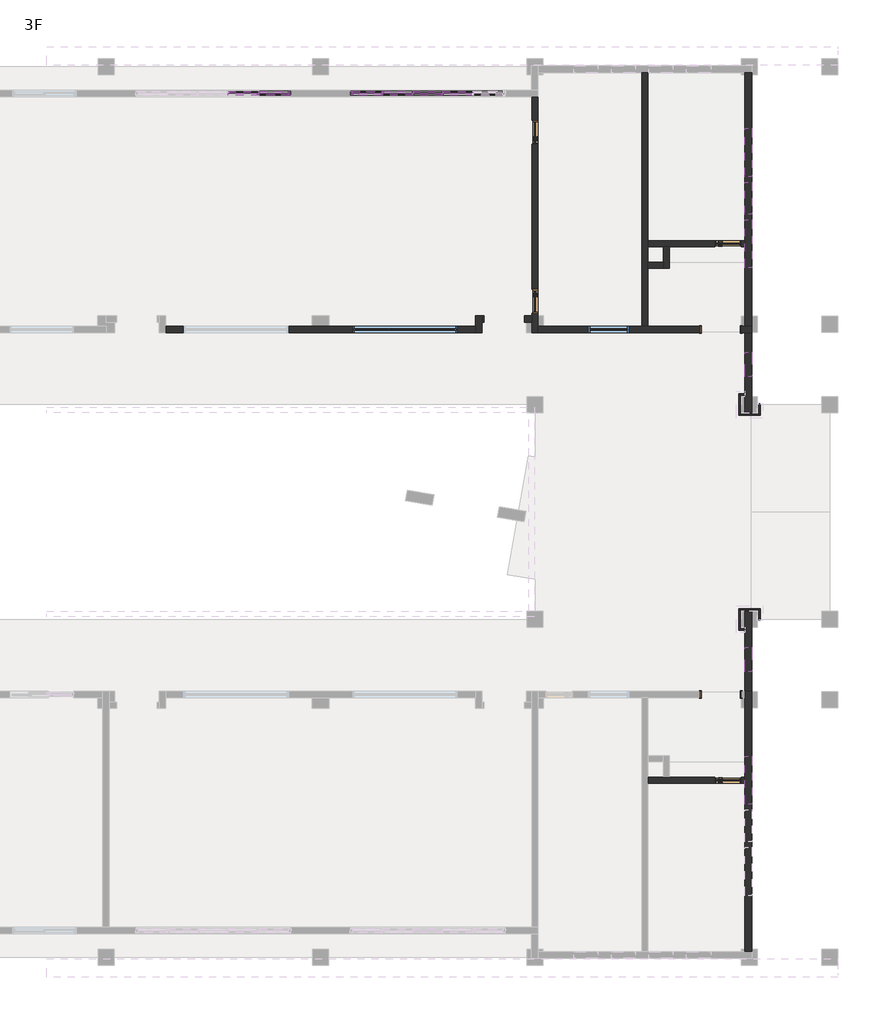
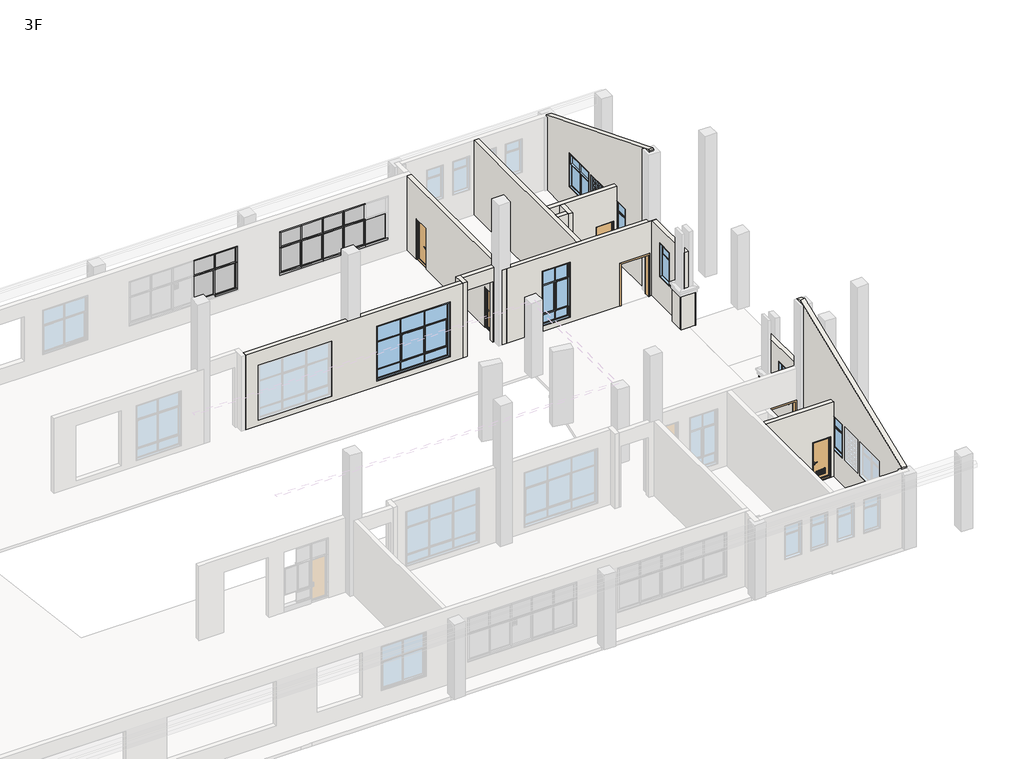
# One storey, part 7 of 9: 28 members, 22 walls, 10 plates, 8 windows, 6 doors.
"""IFC4 building model written with IfcOpenShell, lengths in millimetres."""

from ifc_helpers import new_model, si_unit, frame, origin, place, context, project, spatial, polyline, outline, extrude, faceted_brep, transform, mapped, element, save
from components import dk2_dk2_fd451be2, m3_m3_68d9ec90, m3_m3_9c525ee5, m4_m4_ba408c81, m4_m4_3ad702a5, member_7564be38, member_1f4d75dd, member_0b7842ad, member_163d5e45, member_ffafc35e, member_2b011958, member_9c26cac3, member_6c42befd, member_a374fdad, plate_75e73fbb, plate_f4dba16c, plate_1cc4df2b, plate_4fa5932a, plate_00f9c624, window_f5fa71fb, lc2_lc2_cf207e28, lc5_lc5_9ec79463, lc6_lc6_03a52bd1, lc7_lc7_62699857, lc7a_lc7a_525a1188

model = new_model("IFC4")

# Units and contexts
model_context = context("Model", 3, world=origin())
ifc_project = project(units=[si_unit("LENGTHUNIT", "METRE", prefix="MILLI")], contexts=[model_context])

# Site, building, storey
site = spatial("IfcSite", under=ifc_project)
building = spatial("IfcBuilding", under=site)
storey = spatial("IfcBuildingStorey", under=building, Name="3F", Elevation=8400.0)

# Doors
placement = place(None, origin())
dk2_dk2_shape = dk2_dk2_fd451be2(model_context)
element("IfcDoor", 1, ObjectType="DK2 : DK2", at=placement, inside=storey, context=model_context, shape_type="MappedRepresentation", body=[
    mapped(dk2_dk2_shape, transform((81925.0, 23399.2230996, 8400.0), x_axis=(1.0, 0.0, 0.0), y_axis=(0.0, 1.0, 0.0), z_axis=(0.0, 0.0, 1.0))),
])
element("IfcDoor", 2, ObjectType="DK2 : DK2", at=placement, inside=storey, context=model_context, shape_type="MappedRepresentation", body=[
    mapped(dk2_dk2_shape, transform((81925.0, 9800.7769004, 8400.0), x_axis=(-1.0, 0.0, 0.0), y_axis=(0.0, -1.0, 0.0), z_axis=(0.0, 0.0, 1.0))),
])
m3_m3_shape = m3_m3_68d9ec90(model_context)
element("IfcDoor", 3, ObjectType="M3 : M3", at=placement, inside=storey, context=model_context, shape_type="MappedRepresentation", body=[
    mapped(m3_m3_shape, transform((82199.9999997, 26599.2230996, 8400.0), x_axis=(-1.0, 0.0, 0.0), y_axis=(0.0, -1.0, 0.0), z_axis=(0.0, 0.0, 1.0))),
])
m3_m3_2_shape = m3_m3_9c525ee5(model_context)
element("IfcDoor", 4, ObjectType="M3 : M3", at=placement, inside=storey, context=model_context, shape_type="MappedRepresentation", body=[
    mapped(m3_m3_2_shape, transform((82199.9999997, 6600.7769004, 8400.0), x_axis=(-1.0, 0.0, 0.0), y_axis=(0.0, -1.0, 0.0), z_axis=(0.0, 0.0, 1.0))),
])
m4_m4_shape = m4_m4_ba408c81(model_context)
element("IfcDoor", 5, ObjectType="M4 : M4", at=placement, inside=storey, context=model_context, shape_type="MappedRepresentation", body=[
    mapped(m4_m4_shape, transform((75000.0, 24449.7231011, 8400.0), x_axis=(0.0, 1.0, 0.0), y_axis=(-1.0, 0.0, 0.0), z_axis=(0.0, 0.0, 1.0))),
])
m4_m4_2_shape = m4_m4_3ad702a5(model_context)
element("IfcDoor", 6, ObjectType="M4 : M4", at=placement, inside=storey, context=model_context, shape_type="MappedRepresentation", body=[
    mapped(m4_m4_2_shape, transform((75000.0, 30750.0, 8400.0), x_axis=(0.0, -1.0, 0.0), y_axis=(1.0, 0.0, 0.0), z_axis=(0.0, 0.0, 1.0))),
])

# Members
member_shape = member_7564be38(model_context)
element("IfcMember", 7, ObjectType="矩形竖梃 : 教学楼 – 矩形竖梃 – 100x150mm", at=placement, inside=storey, context=model_context, shape_type="MappedRepresentation", body=[
    mapped(member_shape, transform((65900.0000002, 32210.0, 11800.0), x_axis=(0.0, 0.0, 1.0), y_axis=(0.0, -1.0, 0.0), z_axis=(1.0, 0.0, 0.0))),
])
element("IfcMember", 8, ObjectType="矩形竖梃 : 教学楼 – 矩形竖梃 – 100x150mm", at=placement, inside=storey, context=model_context, shape_type="MappedRepresentation", body=[
    mapped(member_shape, transform((68099.9999995, 32210.0, 9300.0), x_axis=(0.0, 0.0, -1.0), y_axis=(0.0, -1.0, 0.0), z_axis=(-1.0, 0.0, 0.0))),
])
member_2_shape = member_1f4d75dd(model_context)
element("IfcMember", 9, ObjectType="矩形竖梃 : 教学楼 – 矩形竖梃 – 50x150mm", at=placement, inside=storey, context=model_context, shape_type="MappedRepresentation", body=[
    mapped(member_2_shape, transform((70449.9999995, 32210.0, 9400.0), x_axis=(1.0, 0.0, 0.0), y_axis=(0.0, -1.0, 0.0), z_axis=(0.0, 0.0, -1.0))),
])
element("IfcMember", 10, ObjectType="矩形竖梃 : 教学楼 – 矩形竖梃 – 50x150mm", at=placement, inside=storey, context=model_context, shape_type="MappedRepresentation", body=[
    mapped(member_2_shape, transform((71549.9999995, 32210.0, 9400.0), x_axis=(1.0, 0.0, 0.0), y_axis=(0.0, -1.0, 0.0), z_axis=(0.0, 0.0, -1.0))),
])
member_3_shape = member_0b7842ad(model_context)
element("IfcMember", 11, ObjectType="矩形竖梃 : 教学楼 – 矩形竖梃 – 50x150mm", at=placement, inside=storey, context=model_context, shape_type="MappedRepresentation", body=[
    mapped(member_3_shape, transform((69299.9999995, 32210.0, 10850.0), x_axis=(0.0, 0.0, 1.0), y_axis=(0.0, -1.0, 0.0), z_axis=(1.0, 0.0, 0.0))),
])
member_4_shape = member_163d5e45(model_context)
element("IfcMember", 12, ObjectType="矩形竖梃 : 教学楼 – 矩形竖梃 – 50x150mm", at=placement, inside=storey, context=model_context, shape_type="MappedRepresentation", body=[
    mapped(member_4_shape, transform((64700.0000002, 32210.0, 10850.0), x_axis=(0.0, 0.0, 1.0), y_axis=(0.0, -1.0, 0.0), z_axis=(1.0, 0.0, 0.0))),
])
element("IfcMember", 13, ObjectType="矩形竖梃 : 教学楼 – 矩形竖梃 – 50x150mm", at=placement, inside=storey, context=model_context, shape_type="MappedRepresentation", body=[
    mapped(member_4_shape, transform((70449.9999995, 32210.0, 10850.0), x_axis=(0.0, 0.0, 1.0), y_axis=(0.0, -1.0, 0.0), z_axis=(1.0, 0.0, 0.0))),
])
element("IfcMember", 14, ObjectType="矩形竖梃 : 教学楼 – 矩形竖梃 – 50x150mm", at=placement, inside=storey, context=model_context, shape_type="MappedRepresentation", body=[
    mapped(member_4_shape, transform((72699.9999995, 32210.0, 10850.0), x_axis=(0.0, 0.0, 1.0), y_axis=(0.0, -1.0, 0.0), z_axis=(1.0, 0.0, 0.0))),
])
element("IfcMember", 15, ObjectType="矩形竖梃 : 教学楼 – 矩形竖梃 – 50x150mm", at=placement, inside=storey, context=model_context, shape_type="MappedRepresentation", body=[
    mapped(member_3_shape, transform((71549.9999995, 32210.0, 10850.0), x_axis=(0.0, 0.0, 1.0), y_axis=(0.0, -1.0, 0.0), z_axis=(1.0, 0.0, 0.0))),
])
element("IfcMember", 16, ObjectType="矩形竖梃 : 教学楼 – 矩形竖梃 – 50x150mm", at=placement, inside=storey, context=model_context, shape_type="MappedRepresentation", body=[
    mapped(member_3_shape, transform((65800.0000002, 32210.0, 10850.0), x_axis=(0.0, 0.0, 1.0), y_axis=(0.0, -1.0, 0.0), z_axis=(1.0, 0.0, 0.0))),
])
member_5_shape = member_ffafc35e(model_context)
element("IfcMember", 17, ObjectType="矩形竖梃 : 教学楼 – 矩形竖梃 – 100x150mm", at=placement, inside=storey, context=model_context, shape_type="MappedRepresentation", body=[
    mapped(member_5_shape, transform((69299.9999995, 32210.0, 9300.0), x_axis=(0.0, 0.0, -1.0), y_axis=(0.0, -1.0, 0.0), z_axis=(-1.0, 0.0, 0.0))),
])
member_6_shape = member_2b011958(model_context)
element("IfcMember", 18, ObjectType="矩形竖梃 : 教学楼 – 矩形竖梃 – 100x150mm", at=placement, inside=storey, context=model_context, shape_type="MappedRepresentation", body=[
    mapped(member_6_shape, transform((70449.9999995, 32210.0, 9300.0), x_axis=(0.0, 0.0, -1.0), y_axis=(0.0, -1.0, 0.0), z_axis=(-1.0, 0.0, 0.0))),
])
element("IfcMember", 19, ObjectType="矩形竖梃 : 教学楼 – 矩形竖梃 – 100x150mm", at=placement, inside=storey, context=model_context, shape_type="MappedRepresentation", body=[
    mapped(member_5_shape, transform((71549.9999995, 32210.0, 9300.0), x_axis=(0.0, 0.0, -1.0), y_axis=(0.0, -1.0, 0.0), z_axis=(-1.0, 0.0, 0.0))),
])
element("IfcMember", 20, ObjectType="矩形竖梃 : 教学楼 – 矩形竖梃 – 100x150mm", at=placement, inside=storey, context=model_context, shape_type="MappedRepresentation", body=[
    mapped(member_shape, transform((64700.0000002, 32210.0, 9300.0), x_axis=(0.0, 0.0, -1.0), y_axis=(0.0, -1.0, 0.0), z_axis=(-1.0, 0.0, 0.0))),
])
element("IfcMember", 21, ObjectType="矩形竖梃 : 教学楼 – 矩形竖梃 – 100x150mm", at=placement, inside=storey, context=model_context, shape_type="MappedRepresentation", body=[
    mapped(member_shape, transform((72699.9999995, 32210.0, 9300.0), x_axis=(0.0, 0.0, -1.0), y_axis=(0.0, -1.0, 0.0), z_axis=(-1.0, 0.0, 0.0))),
])
element("IfcMember", 22, ObjectType="矩形竖梃 : 教学楼 – 矩形竖梃 – 100x150mm", at=placement, inside=storey, context=model_context, shape_type="MappedRepresentation", body=[
    mapped(member_shape, transform((69299.9999995, 32210.0, 11800.0), x_axis=(0.0, 0.0, 1.0), y_axis=(0.0, -1.0, 0.0), z_axis=(1.0, 0.0, 0.0))),
])
element("IfcMember", 23, ObjectType="矩形竖梃 : 教学楼 – 矩形竖梃 – 100x150mm", at=placement, inside=storey, context=model_context, shape_type="MappedRepresentation", body=[
    mapped(member_5_shape, transform((64700.0000002, 32210.0, 11800.0), x_axis=(0.0, 0.0, 1.0), y_axis=(0.0, -1.0, 0.0), z_axis=(1.0, 0.0, 0.0))),
])
element("IfcMember", 24, ObjectType="矩形竖梃 : 教学楼 – 矩形竖梃 – 100x150mm", at=placement, inside=storey, context=model_context, shape_type="MappedRepresentation", body=[
    mapped(member_5_shape, transform((70449.9999995, 32210.0, 11800.0), x_axis=(0.0, 0.0, 1.0), y_axis=(0.0, -1.0, 0.0), z_axis=(1.0, 0.0, 0.0))),
])
element("IfcMember", 25, ObjectType="矩形竖梃 : 教学楼 – 矩形竖梃 – 100x150mm", at=placement, inside=storey, context=model_context, shape_type="MappedRepresentation", body=[
    mapped(member_5_shape, transform((72699.9999995, 32210.0, 11800.0), x_axis=(0.0, 0.0, 1.0), y_axis=(0.0, -1.0, 0.0), z_axis=(1.0, 0.0, 0.0))),
])
element("IfcMember", 26, ObjectType="矩形竖梃 : 教学楼 – 矩形竖梃 – 100x150mm", at=placement, inside=storey, context=model_context, shape_type="MappedRepresentation", body=[
    mapped(member_6_shape, transform((71549.9999995, 32210.0, 11800.0), x_axis=(0.0, 0.0, 1.0), y_axis=(0.0, -1.0, 0.0), z_axis=(1.0, 0.0, 0.0))),
])
member_7_shape = member_9c26cac3(model_context)
element("IfcMember", 27, ObjectType="矩形竖梃 : 教学楼 – 矩形竖梃 – 50x150mm", at=placement, inside=storey, context=model_context, shape_type="MappedRepresentation", body=[
    mapped(member_7_shape, transform((64700.0000002, 32210.0, 10875.0), x_axis=(1.0, 0.0, 0.0), y_axis=(0.0, -1.0, 0.0), z_axis=(0.0, 0.0, -1.0))),
])
element("IfcMember", 28, ObjectType="矩形竖梃 : 教学楼 – 矩形竖梃 – 50x150mm", at=placement, inside=storey, context=model_context, shape_type="MappedRepresentation", body=[
    mapped(member_7_shape, transform((69299.9999995, 32210.0, 10875.0), x_axis=(1.0, 0.0, 0.0), y_axis=(0.0, -1.0, 0.0), z_axis=(0.0, 0.0, -1.0))),
])
element("IfcMember", 29, ObjectType="矩形竖梃 : 教学楼 – 矩形竖梃 – 50x150mm", at=placement, inside=storey, context=model_context, shape_type="MappedRepresentation", body=[
    mapped(member_7_shape, transform((70449.9999995, 32210.0, 10875.0), x_axis=(1.0, 0.0, 0.0), y_axis=(0.0, -1.0, 0.0), z_axis=(0.0, 0.0, -1.0))),
])
element("IfcMember", 30, ObjectType="矩形竖梃 : 教学楼 – 矩形竖梃 – 50x150mm", at=placement, inside=storey, context=model_context, shape_type="MappedRepresentation", body=[
    mapped(member_7_shape, transform((71549.9999995, 32210.0, 10875.0), x_axis=(1.0, 0.0, 0.0), y_axis=(0.0, -1.0, 0.0), z_axis=(0.0, 0.0, -1.0))),
])
member_8_shape = member_6c42befd(model_context)
element("IfcMember", 31, ObjectType="矩形竖梃 : 教学楼 – 矩形竖梃 – 100x150mm", at=placement, inside=storey, context=model_context, shape_type="MappedRepresentation", body=[
    mapped(member_8_shape, transform((68099.9999995, 32210.0, 11700.0), x_axis=(-1.0, 0.0, 0.0), y_axis=(0.0, -1.0, 0.0), z_axis=(0.0, 0.0, 1.0))),
])
member_9_shape = member_a374fdad(model_context)
element("IfcMember", 32, ObjectType="矩形竖梃 : 教学楼 – 矩形竖梃 – 100x150mm", at=placement, inside=storey, context=model_context, shape_type="MappedRepresentation", body=[
    mapped(member_9_shape, transform((65900.0000002, 32210.0, 9400.0), x_axis=(1.0, 0.0, 0.0), y_axis=(0.0, -1.0, 0.0), z_axis=(0.0, 0.0, -1.0))),
])
element("IfcMember", 33, ObjectType="矩形竖梃 : 教学楼 – 矩形竖梃 – 100x150mm", at=placement, inside=storey, context=model_context, shape_type="MappedRepresentation", body=[
    mapped(member_8_shape, transform((65900.0000002, 32210.0, 10850.0), x_axis=(1.0, 0.0, 0.0), y_axis=(0.0, -1.0, 0.0), z_axis=(0.0, 0.0, -1.0))),
])
element("IfcMember", 34, ObjectType="矩形竖梃 : 教学楼 – 矩形竖梃 – 100x150mm", at=placement, inside=storey, context=model_context, shape_type="MappedRepresentation", body=[
    mapped(member_9_shape, transform((68099.9999995, 32210.0, 10850.0), x_axis=(-1.0, 0.0, 0.0), y_axis=(0.0, -1.0, 0.0), z_axis=(0.0, 0.0, 1.0))),
])

# Plates
plate_shape = plate_75e73fbb(model_context)
element("IfcPlate", 35, ObjectType="教学楼 - 窗嵌板：双扇推拉窗 : 教学楼 - 窗嵌板：双扇推拉窗", at=placement, inside=storey, context=model_context, shape_type="MappedRepresentation", body=[
    mapped(plate_shape, transform((69312.4999995, 32210.0, 9400.0), x_axis=(1.0, 0.0, 0.0), y_axis=(0.0, 1.0, 0.0), z_axis=(0.0, 0.0, 1.0))),
])
plate_2_shape = plate_f4dba16c(model_context)
element("IfcPlate", 36, ObjectType="系统嵌板 : 玻璃", at=placement, inside=storey, context=model_context, shape_type="MappedRepresentation", body=[
    mapped(plate_2_shape, transform((70999.9999995, 32210.0, 9400.0), x_axis=(1.0, 0.0, 0.0), y_axis=(0.0, 1.0, 0.0), z_axis=(0.0, 0.0, 1.0))),
])
element("IfcPlate", 37, ObjectType="教学楼 - 窗嵌板：双扇推拉窗 : 教学楼 - 窗嵌板：双扇推拉窗", at=placement, inside=storey, context=model_context, shape_type="MappedRepresentation", body=[
    mapped(plate_shape, transform((64687.5000002, 32210.0, 9400.0), x_axis=(1.0, 0.0, 0.0), y_axis=(0.0, 1.0, 0.0), z_axis=(0.0, 0.0, 1.0))),
])
element("IfcPlate", 38, ObjectType="教学楼 - 窗嵌板：双扇推拉窗 : 教学楼 - 窗嵌板：双扇推拉窗", at=placement, inside=storey, context=model_context, shape_type="MappedRepresentation", body=[
    mapped(plate_shape, transform((72687.4999995, 32210.0, 9400.0), x_axis=(1.0, 0.0, 0.0), y_axis=(0.0, 1.0, 0.0), z_axis=(0.0, 0.0, 1.0))),
])
plate_3_shape = plate_1cc4df2b(model_context)
element("IfcPlate", 39, ObjectType="系统嵌板 : 玻璃", at=placement, inside=storey, context=model_context, shape_type="MappedRepresentation", body=[
    mapped(plate_3_shape, transform((65262.5000002, 32210.0, 10875.0), x_axis=(1.0, 0.0, 0.0), y_axis=(0.0, 1.0, 0.0), z_axis=(0.0, 0.0, 1.0))),
])
element("IfcPlate", 40, ObjectType="系统嵌板 : 玻璃", at=placement, inside=storey, context=model_context, shape_type="MappedRepresentation", body=[
    mapped(plate_3_shape, transform((68737.4999995, 32210.0, 10875.0), x_axis=(1.0, 0.0, 0.0), y_axis=(0.0, 1.0, 0.0), z_axis=(0.0, 0.0, 1.0))),
])
plate_4_shape = plate_4fa5932a(model_context)
element("IfcPlate", 41, ObjectType="系统嵌板 : 玻璃", at=placement, inside=storey, context=model_context, shape_type="MappedRepresentation", body=[
    mapped(plate_4_shape, transform((64125.0000002, 32210.0, 10875.0), x_axis=(1.0, 0.0, 0.0), y_axis=(0.0, 1.0, 0.0), z_axis=(0.0, 0.0, 1.0))),
])
element("IfcPlate", 42, ObjectType="系统嵌板 : 玻璃", at=placement, inside=storey, context=model_context, shape_type="MappedRepresentation", body=[
    mapped(plate_4_shape, transform((69874.9999995, 32210.0, 10875.0), x_axis=(1.0, 0.0, 0.0), y_axis=(0.0, 1.0, 0.0), z_axis=(0.0, 0.0, 1.0))),
])
element("IfcPlate", 43, ObjectType="系统嵌板 : 玻璃", at=placement, inside=storey, context=model_context, shape_type="MappedRepresentation", body=[
    mapped(plate_4_shape, transform((72124.9999995, 32210.0, 10875.0), x_axis=(1.0, 0.0, 0.0), y_axis=(0.0, 1.0, 0.0), z_axis=(0.0, 0.0, 1.0))),
])
plate_5_shape = plate_00f9c624(model_context)
element("IfcPlate", 44, ObjectType="系统嵌板 : 玻璃", at=placement, inside=storey, context=model_context, shape_type="MappedRepresentation", body=[
    mapped(plate_5_shape, transform((70999.9999995, 32210.0, 10875.0), x_axis=(1.0, 0.0, 0.0), y_axis=(0.0, 1.0, 0.0), z_axis=(0.0, 0.0, 1.0))),
])

# Walls
element("IfcWall", 45, ObjectType="教学楼 – 饰面砖外墙 – 200mm", at=placement, inside=storey, context=model_context, shape_type="Brep", body=[
    faceted_brep([(82832.9999995, 32982.6954642, 8400.0), (82832.9999995, 32900.0, 8400.0), (82832.9999995, 26716.2230996, 8400.0), (82832.9999995, 26482.2230996, 8400.0), (82832.9999995, 23900.0, 8400.0), (82832.9999995, 23516.2230996, 8400.0), (82832.9999995, 23516.2230996, 12600.0), (82832.9999995, 23516.2230996, 16319.691812), (82832.9999995, 23516.2230996, 16406.4488266), (82832.9999995, 23599.6575445, 16439.8202237), (82832.9999995, 32982.6954642, 12686.8728095), (82832.9999995, 32982.6954642, 12600.0), (82832.9999995, 28899.2230731, 9900.0), (82832.9999995, 28899.2230731, 11800.0), (82832.9999995, 27699.2230731, 11800.0), (82832.9999995, 27699.2230731, 9900.0), (82832.9999995, 27499.2230975, 9900.0), (82832.9999995, 27499.2230975, 11800.0), (82832.9999995, 25699.2230975, 11800.0), (82832.9999995, 25699.2230975, 9900.0), (82832.9999995, 30899.2230996, 9900.0), (82832.9999995, 30899.2230996, 11800.0), (82832.9999995, 29099.2230996, 11800.0), (82832.9999995, 29099.2230996, 9900.0), (83082.9999995, 32982.6954642, 8400.0), (83082.9999995, 32982.6954642, 12600.0), (83082.9999995, 32982.6954642, 12686.8728095), (83082.9999995, 23599.6575445, 16439.8202237), (83082.9999995, 23516.2230996, 16406.4488266), (83082.9999995, 23516.2230996, 16319.691812), (83082.9999995, 23516.2230996, 12600.0), (83082.9999995, 23516.2230996, 8400.0), (83082.9999995, 23900.0, 8400.0), (83082.9999995, 32900.0, 8400.0), (83082.9999995, 28899.2230731, 9900.0), (83082.9999995, 27699.2230731, 9900.0), (83082.9999995, 27699.2230731, 11800.0), (83082.9999995, 28899.2230731, 11800.0), (83082.9999995, 27499.2230975, 9900.0), (83082.9999995, 25699.2230975, 9900.0), (83082.9999995, 25699.2230975, 11800.0), (83082.9999995, 27499.2230975, 11800.0), (83082.9999995, 30899.2230996, 9900.0), (83082.9999995, 29099.2230996, 9900.0), (83082.9999995, 29099.2230996, 11800.0), (83082.9999995, 30899.2230996, 11800.0)], [[[0, 1, 2, 3, 4, 5, 6, 7, 8, 9, 10, 11], [12, 13, 14, 15], [16, 17, 18, 19], [20, 21, 22, 23]], [[24, 25, 26, 27, 28, 29, 30, 31, 32, 33], [34, 35, 36, 37], [38, 39, 40, 41], [42, 43, 44, 45]], [[5, 4, 3, 2, 1, 0, 24, 33, 32, 31]], [[0, 11, 10, 26, 25, 24]], [[13, 12, 34, 37]], [[14, 13, 37, 36]], [[15, 14, 36, 35]], [[12, 15, 35, 34]], [[17, 16, 38, 41]], [[18, 17, 41, 40]], [[19, 18, 40, 39]], [[16, 19, 39, 38]], [[21, 20, 42, 45]], [[22, 21, 45, 44]], [[23, 22, 44, 43]], [[20, 23, 43, 42]], [[10, 9, 27, 26]], [[9, 8, 28, 27]], [[8, 7, 6, 5, 31, 30, 29, 28]]]),
])
element("IfcWall", 46, ObjectType="教学楼 – 饰面砖外墙 – 200mm", at=placement, inside=storey, context=model_context, shape_type="Brep", body=[
    faceted_brep([(83082.9999995, 217.3045358, 8400.0), (83082.9999995, 300.0, 8400.0), (83082.9999995, 9300.0, 8400.0), (83082.9999995, 9900.0, 8400.0), (83082.9999995, 9917.7769004, 8400.0), (83082.9999995, 9917.7769004, 12600.0), (83082.9999995, 9917.7769004, 16312.855504), (83082.9999995, 9600.3424555, 16439.8202237), (83082.9999995, 217.3045358, 12686.8728095), (83082.9999995, 217.3045358, 12600.0), (83082.9999995, 5500.1677972, 9900.0), (83082.9999995, 4300.1677972, 9900.0), (83082.9999995, 4300.1677972, 11800.0), (83082.9999995, 5500.1677972, 11800.0), (83082.9999995, 2300.1678289, 9900.0), (83082.9999995, 2300.1678289, 11800.0), (83082.9999995, 4100.1678289, 11800.0), (83082.9999995, 4100.1678289, 9900.0), (83082.9999995, 7500.1678287, 9900.0), (83082.9999995, 5700.1678287, 9900.0), (83082.9999995, 5700.1678287, 11800.0), (83082.9999995, 7500.1678287, 11800.0), (82832.9999995, 217.3045358, 8400.0), (82832.9999995, 217.3045358, 12600.0), (82832.9999995, 217.3045358, 12686.8728095), (82832.9999995, 9600.3424555, 16439.8202237), (82832.9999995, 9917.7769004, 16312.855504), (82832.9999995, 9917.7769004, 12600.0), (82832.9999995, 9917.7769004, 8400.0), (82832.9999995, 9683.7769004, 8400.0), (82832.9999995, 9300.0, 8400.0), (82832.9999995, 6717.7769004, 8400.0), (82832.9999995, 6483.7769004, 8400.0), (82832.9999995, 300.0, 8400.0), (82832.9999995, 5500.1677972, 9900.0), (82832.9999995, 5500.1677972, 11800.0), (82832.9999995, 4300.1677972, 11800.0), (82832.9999995, 4300.1677972, 9900.0), (82832.9999995, 2300.1678289, 9900.0), (82832.9999995, 4100.1678289, 9900.0), (82832.9999995, 4100.1678289, 11800.0), (82832.9999995, 2300.1678289, 11800.0), (82832.9999995, 7500.1678287, 9900.0), (82832.9999995, 7500.1678287, 11800.0), (82832.9999995, 5700.1678287, 11800.0), (82832.9999995, 5700.1678287, 9900.0)], [[[0, 1, 2, 3, 4, 5, 6, 7, 8, 9], [10, 11, 12, 13], [14, 15, 16, 17], [18, 19, 20, 21]], [[22, 23, 24, 25, 26, 27, 28, 29, 30, 31, 32, 33], [34, 35, 36, 37], [38, 39, 40, 41], [42, 43, 44, 45]], [[4, 3, 2, 1, 0, 22, 33, 32, 31, 30, 29, 28]], [[0, 9, 8, 24, 23, 22]], [[35, 34, 10, 13]], [[36, 35, 13, 12]], [[37, 36, 12, 11]], [[34, 37, 11, 10]], [[15, 14, 38, 41]], [[16, 15, 41, 40]], [[17, 16, 40, 39]], [[14, 17, 39, 38]], [[43, 42, 18, 21]], [[44, 43, 21, 20]], [[45, 44, 20, 19]], [[42, 45, 19, 18]], [[8, 7, 25, 24]], [[7, 6, 26, 25]], [[6, 5, 4, 28, 27, 26]]]),
])
element("IfcWall", 47, ObjectType="教学楼 – 涂料内墙 – 200mm", at=placement, inside=storey, context=model_context, shape_type="Brep", body=[
    faceted_brep([(74883.0, 23282.2230996, 12600.0), (74883.0, 23283.0, 12600.0), (74883.0, 23682.7231011, 12600.0), (74883.0, 23916.7231011, 12600.0), (74883.0, 23917.0, 12600.0), (74883.0, 32075.0, 12600.0), (74883.0, 32075.0, 8400.0), (74883.0, 31200.0, 8400.0), (74883.0, 31200.0, 10700.0), (74883.0, 30300.0, 10700.0), (74883.0, 30300.0, 8400.0), (74883.0, 24899.7231011, 8400.0), (74883.0, 24899.7231011, 10700.0), (74883.0, 23999.7231011, 10700.0), (74883.0, 23999.7231011, 8400.0), (74883.0, 23917.0, 8400.0), (74883.0, 23916.7231011, 8400.0), (74883.0, 23682.7231011, 8400.0), (74883.0, 23283.0, 8400.0), (74883.0, 23282.2230996, 8400.0), (75117.0, 32075.0, 12600.0), (75117.0, 23917.0, 12600.0), (75117.0, 23516.2230996, 12600.0), (75117.0, 23282.2230996, 12600.0), (75117.0, 23282.2230996, 8400.0), (75117.0, 23516.2230996, 8400.0), (75117.0, 23917.0, 8400.0), (75117.0, 23999.7231011, 8400.0), (75117.0, 23999.7231011, 10700.0), (75117.0, 24899.7231011, 10700.0), (75117.0, 24899.7231011, 8400.0), (75117.0, 30300.0, 8400.0), (75117.0, 30300.0, 10700.0), (75117.0, 31200.0, 10700.0), (75117.0, 31200.0, 8400.0), (75117.0, 32075.0, 8400.0)], [[[0, 1, 2, 3, 4, 5, 6, 7, 8, 9, 10, 11, 12, 13, 14, 15, 16, 17, 18, 19]], [[20, 21, 22, 23, 24, 25, 26, 27, 28, 29, 30, 31, 32, 33, 34, 35]], [[24, 19, 18, 17, 16, 15, 14, 27, 26, 25]], [[6, 35, 34, 7]], [[30, 11, 10, 31]], [[5, 4, 3, 2, 1, 0, 23, 22, 21, 20]], [[0, 19, 24, 23]], [[6, 5, 20, 35]], [[12, 11, 30, 29]], [[13, 12, 29, 28]], [[14, 13, 28, 27]], [[9, 32, 31, 10]], [[32, 9, 8, 33]], [[33, 8, 7, 34]]]),
])
element("IfcWall", 48, ObjectType="教学楼 – 涂料内墙 – 200mm", at=placement, inside=storey, context=model_context, shape_type="Brep", body=[
    faceted_brep([(78983.0000003, 32982.6954642, 8400.0), (78983.0000003, 23516.2230996, 8400.0), (78983.0000003, 23516.2230996, 12600.0), (78983.0000003, 32982.6954642, 12600.0), (79217.0000003, 32982.6954642, 8400.0), (79217.0000003, 32982.6954642, 12600.0), (79217.0000003, 26716.2230996, 12600.0), (79217.0000003, 26482.2230996, 12600.0), (79217.0000003, 25916.2230996, 12600.0), (79217.0000003, 25682.2230996, 12600.0), (79217.0000003, 23516.2230996, 12600.0), (79217.0000003, 23516.2230996, 8400.0), (79217.0000003, 25682.2230996, 8400.0), (79217.0000003, 25916.2230996, 8400.0), (79217.0000003, 26482.2230996, 8400.0), (79217.0000003, 26716.2230996, 8400.0)], [[[0, 1, 2, 3]], [[4, 5, 6, 7, 8, 9, 10, 11, 12, 13, 14, 15]], [[1, 0, 4, 15, 14, 13, 12, 11]], [[3, 2, 10, 9, 8, 7, 6, 5]], [[2, 1, 11, 10]], [[0, 3, 5, 4]]]),
])
element("IfcWall", 49, ObjectType="教学楼 – 涂料内墙 – 200mm", at=placement, inside=storey, context=model_context, shape_type="Brep", body=[
    faceted_brep([(82832.9999995, 26482.2230996, 12600.0), (80016.9999995, 26482.2230996, 12600.0), (79782.9999995, 26482.2230996, 12600.0), (79217.0000003, 26482.2230996, 12600.0), (79217.0000003, 26482.2230996, 8400.0), (79782.9999995, 26482.2230996, 8400.0), (80016.9999995, 26482.2230996, 8400.0), (81699.9999997, 26482.2230996, 8400.0), (81699.9999997, 26482.2230996, 10700.0), (82699.9999997, 26482.2230996, 10700.0), (82699.9999997, 26482.2230996, 8400.0), (82832.9999995, 26482.2230996, 8400.0), (79217.0000003, 26716.2230996, 12600.0), (82832.9999995, 26716.2230996, 12600.0), (82832.9999995, 26716.2230996, 8400.0), (82699.9999997, 26716.2230996, 8400.0), (82699.9999997, 26716.2230996, 10700.0), (81699.9999997, 26716.2230996, 10700.0), (81699.9999997, 26716.2230996, 8400.0), (79217.0000003, 26716.2230996, 8400.0)], [[[0, 1, 2, 3, 4, 5, 6, 7, 8, 9, 10, 11]], [[12, 13, 14, 15, 16, 17, 18, 19]], [[4, 19, 18, 7, 6, 5]], [[14, 11, 10, 15]], [[3, 2, 1, 0, 13, 12]], [[4, 3, 12, 19]], [[0, 11, 14, 13]], [[17, 8, 7, 18]], [[8, 17, 16, 9]], [[9, 16, 15, 10]]]),
])
element("IfcWall", 50, ObjectType="教学楼 – 涂料内墙 – 200mm", at=placement, inside=storey, context=model_context, shape_type="Brep", body=[
    faceted_brep([(83082.9999995, 23282.2230996, 12600.0), (82832.9999995, 23282.2230996, 12600.0), (75117.0, 23282.2230996, 12600.0), (75117.0, 23282.2230996, 8400.0), (81150.0, 23282.2230996, 8400.0), (81150.0, 23282.2230996, 10800.0), (82700.0, 23282.2230996, 10800.0), (82700.0, 23282.2230996, 8400.0), (82832.9999995, 23282.2230996, 8400.0), (83082.9999995, 23282.2230996, 8400.0), (76999.9999945, 23282.2230996, 8700.0), (76999.9999945, 23282.2230996, 11800.0), (78499.9999945, 23282.2230996, 11800.0), (78499.9999945, 23282.2230996, 8700.0), (75117.0, 23516.2230996, 12600.0), (75317.0, 23516.2230996, 12600.0), (78983.0000003, 23516.2230996, 12600.0), (79217.0000003, 23516.2230996, 12600.0), (82700.0, 23516.2230996, 12600.0), (82832.9999995, 23516.2230996, 12600.0), (83082.9999995, 23516.2230996, 12600.0), (83082.9999995, 23516.2230996, 8400.0), (82832.9999995, 23516.2230996, 8400.0), (82700.0, 23516.2230996, 8400.0), (82700.0, 23516.2230996, 10800.0), (81150.0, 23516.2230996, 10800.0), (81150.0, 23516.2230996, 8400.0), (79217.0000003, 23516.2230996, 8400.0), (78983.0000003, 23516.2230996, 8400.0), (75317.0, 23516.2230996, 8400.0), (75117.0, 23516.2230996, 8400.0), (76999.9999945, 23516.2230996, 8700.0), (78499.9999945, 23516.2230996, 8700.0), (78499.9999945, 23516.2230996, 11800.0), (76999.9999945, 23516.2230996, 11800.0), (83082.9999995, 23300.0, 8400.0), (83082.9999995, 23300.0, 12600.0)], [[[0, 1, 2, 3, 4, 5, 6, 7, 8, 9], [10, 11, 12, 13]], [[14, 15, 16, 17, 18, 19, 20, 21, 22, 23, 24, 25, 26, 27, 28, 29, 30], [31, 32, 33, 34]], [[3, 30, 29, 28, 27, 26, 4]], [[21, 35, 9, 8, 7, 23, 22]], [[2, 1, 0, 36, 20, 19, 18, 17, 16, 15, 14]], [[3, 2, 14, 30]], [[0, 9, 35, 21, 20, 36]], [[6, 24, 23, 7]], [[24, 6, 5, 25]], [[25, 5, 4, 26]], [[11, 10, 31, 34]], [[12, 11, 34, 33]], [[13, 12, 33, 32]], [[10, 13, 32, 31]]]),
])
element("IfcWall", 51, ObjectType="教学楼 – 涂料内墙 – 200mm", at=placement, inside=storey, context=model_context, shape_type="Brep", body=[
    faceted_brep([(74883.0, 23682.7231011, 12600.0), (74683.0, 23682.7231011, 12600.0), (73017.0, 23682.7231011, 12600.0), (73017.0, 23682.7231011, 8400.0), (73099.9999991, 23682.7231011, 8400.0), (73099.9999991, 23682.7231011, 11800.0), (74599.9999991, 23682.7231011, 11800.0), (74599.9999991, 23682.7231011, 8400.0), (74683.0, 23682.7231011, 8400.0), (74883.0, 23682.7231011, 8400.0), (73017.0, 23916.7231011, 12600.0), (74683.0, 23916.7231011, 12600.0), (74883.0, 23916.7231011, 12600.0), (74883.0, 23916.7231011, 8400.0), (74683.0, 23916.7231011, 8400.0), (74599.9999991, 23916.7231011, 8400.0), (74599.9999991, 23916.7231011, 11800.0), (73099.9999991, 23916.7231011, 11800.0), (73099.9999991, 23916.7231011, 8400.0), (73017.0, 23916.7231011, 8400.0)], [[[0, 1, 2, 3, 4, 5, 6, 7, 8, 9]], [[10, 11, 12, 13, 14, 15, 16, 17, 18, 19]], [[3, 19, 18, 4]], [[13, 9, 8, 7, 15, 14]], [[2, 1, 0, 12, 11, 10]], [[3, 2, 10, 19]], [[0, 9, 13, 12]], [[17, 5, 4, 18]], [[5, 17, 16, 6]], [[6, 16, 15, 7]]]),
])
element("IfcWall", 52, ObjectType="教学楼 – 涂料内墙 – 200mm", at=placement, inside=storey, context=model_context, shape_type="Brep", body=[
    faceted_brep([(72783.0, 23916.7231011, 8400.0), (72783.0, 23516.6954638, 8400.0), (72783.0, 23282.6954638, 8400.0), (72783.0, 23282.6954638, 12600.0), (72783.0, 23516.6954638, 12600.0), (72783.0, 23916.7231011, 12600.0), (73017.0, 23916.7231011, 8400.0), (73017.0, 23916.7231011, 12600.0), (73017.0, 23682.7231011, 12600.0), (73017.0, 23282.6954638, 12600.0), (73017.0, 23282.6954638, 8400.0), (73017.0, 23682.7231011, 8400.0)], [[[0, 1, 2, 3, 4, 5]], [[6, 7, 8, 9, 10, 11]], [[2, 1, 0, 6, 11, 10]], [[5, 4, 3, 9, 8, 7]], [[3, 2, 10, 9]], [[0, 5, 7, 6]]]),
])
element("IfcWall", 53, ObjectType="教学楼 – 涂料内墙 – 200mm", at=placement, inside=storey, context=model_context, shape_type="Brep", body=[
    faceted_brep([(72783.0, 23516.6954638, 8400.0), (67317.0, 23516.6954638, 8400.0), (66683.0, 23516.6954638, 8400.0), (61216.9999995, 23516.6954638, 8400.0), (61216.9999995, 23516.6954638, 12600.0), (66683.0, 23516.6954638, 12600.0), (67317.0, 23516.6954638, 12600.0), (72783.0, 23516.6954638, 12600.0), (65800.0000018, 23516.6954638, 8700.0), (65800.0000018, 23516.6954638, 11800.0), (61900.0000018, 23516.6954638, 11800.0), (61900.0000018, 23516.6954638, 8700.0), (72100.0000004, 23516.6954638, 8700.0), (72100.0000004, 23516.6954638, 11800.0), (68200.0000004, 23516.6954638, 11800.0), (68200.0000004, 23516.6954638, 8700.0), (72783.0, 23282.6954638, 8400.0), (72783.0, 23282.6954638, 12600.0), (61216.9999995, 23282.6954638, 12600.0), (61216.9999995, 23282.6954638, 8400.0), (65800.0000018, 23282.6954638, 8700.0), (61900.0000018, 23282.6954638, 8700.0), (61900.0000018, 23282.6954638, 11800.0), (65800.0000018, 23282.6954638, 11800.0), (72100.0000004, 23282.6954638, 8700.0), (68200.0000004, 23282.6954638, 8700.0), (68200.0000004, 23282.6954638, 11800.0), (72100.0000004, 23282.6954638, 11800.0)], [[[0, 1, 2, 3, 4, 5, 6, 7], [8, 9, 10, 11], [12, 13, 14, 15]], [[16, 17, 18, 19], [20, 21, 22, 23], [24, 25, 26, 27]], [[3, 2, 1, 0, 16, 19]], [[7, 6, 5, 4, 18, 17]], [[0, 7, 17, 16]], [[4, 3, 19, 18]], [[9, 8, 20, 23]], [[10, 9, 23, 22]], [[11, 10, 22, 21]], [[8, 11, 21, 20]], [[13, 12, 24, 27]], [[14, 13, 27, 26]], [[15, 14, 26, 25]], [[12, 15, 25, 24]]]),
])
element("IfcWall", 54, ObjectType="教学楼 – 涂料内墙 – 200mm", at=placement, inside=storey, context=model_context, shape_type="Brep", body=[
    faceted_brep([(79782.9999995, 26482.2230996, 8400.0), (79782.9999995, 25916.2230996, 8400.0), (79782.9999995, 25682.2230996, 8400.0), (79782.9999995, 25682.2230996, 12600.0), (79782.9999995, 25916.2230996, 12600.0), (79782.9999995, 26482.2230996, 12600.0), (80016.9999995, 26482.2230996, 8400.0), (80016.9999995, 26482.2230996, 12600.0), (80016.9999995, 25682.2230996, 12600.0), (80016.9999995, 25682.2230996, 8400.0)], [[[0, 1, 2, 3, 4, 5]], [[6, 7, 8, 9]], [[2, 1, 0, 6, 9]], [[5, 4, 3, 8, 7]], [[3, 2, 9, 8]], [[0, 5, 7, 6]]]),
])
element("IfcWall", 55, ObjectType="教学楼 – 涂料内墙 – 200mm", at=placement, inside=storey, context=model_context, shape_type="SweptSolid", body=[
    extrude(outline(polyline([(79217.0000003, 25916.2230996), (79782.9999995, 25916.2230996), (79782.9999995, 25682.2230996), (79217.0000003, 25682.2230996), (79217.0000003, 25916.2230996)])), frame((0.0, 0.0, 8400.0), z_axis=(0.0, 0.0, 1.0), x_axis=(1.0, 0.0, 0.0)), (0.0, 0.0, 1.0), 4200.0),
])
element("IfcWall", 56, ObjectType="教学楼 – 涂料内墙 – 200mm", at=placement, inside=storey, context=model_context, shape_type="Brep", body=[
    faceted_brep([(82832.9999995, 6483.7769004, 12600.0), (79217.0000003, 6483.7769004, 12600.0), (79217.0000003, 6483.7769004, 8400.0), (81699.9999997, 6483.7769004, 8400.0), (81699.9999997, 6483.7769004, 10700.0), (82699.9999997, 6483.7769004, 10700.0), (82699.9999997, 6483.7769004, 8400.0), (82832.9999995, 6483.7769004, 8400.0), (79217.0000003, 6717.7769004, 12600.0), (79782.9999995, 6717.7769004, 12600.0), (80016.9999995, 6717.7769004, 12600.0), (82832.9999995, 6717.7769004, 12600.0), (82832.9999995, 6717.7769004, 8400.0), (82699.9999997, 6717.7769004, 8400.0), (82699.9999997, 6717.7769004, 10700.0), (81699.9999997, 6717.7769004, 10700.0), (81699.9999997, 6717.7769004, 8400.0), (80016.9999995, 6717.7769004, 8400.0), (79782.9999995, 6717.7769004, 8400.0), (79217.0000003, 6717.7769004, 8400.0)], [[[0, 1, 2, 3, 4, 5, 6, 7]], [[8, 9, 10, 11, 12, 13, 14, 15, 16, 17, 18, 19]], [[2, 19, 18, 17, 16, 3]], [[12, 7, 6, 13]], [[1, 0, 11, 10, 9, 8]], [[2, 1, 8, 19]], [[0, 7, 12, 11]], [[15, 4, 3, 16]], [[4, 15, 14, 5]], [[5, 14, 13, 6]]]),
])
element("IfcWall", 57, ObjectType="教学楼 – 饰面砖外墙 – 200mm", at=placement, inside=storey, context=model_context, shape_type="Brep", body=[
    faceted_brep([(83082.9999995, 9917.7769004, 8400.0), (83082.9999995, 12300.0, 8400.0), (83082.9999995, 12900.0, 8400.0), (83082.9999995, 12900.0, 12600.0), (83082.9999995, 9917.7769004, 12600.0), (83082.9999995, 10649.6954632, 9900.0), (83082.9999995, 10649.6954632, 11800.0), (83082.9999995, 11549.6954632, 11800.0), (83082.9999995, 11549.6954632, 9900.0), (82832.9999995, 9917.7769004, 8400.0), (82832.9999995, 9917.7769004, 12600.0), (82832.9999995, 12900.0, 12600.0), (82832.9999995, 12900.0, 8400.0), (82832.9999995, 12300.0, 8400.0), (82832.9999995, 12250.0, 8400.0), (82832.9999995, 12200.0, 8400.0), (82832.9999995, 10649.6954632, 9900.0), (82832.9999995, 11549.6954632, 9900.0), (82832.9999995, 11549.6954632, 11800.0), (82832.9999995, 10649.6954632, 11800.0)], [[[0, 1, 2, 3, 4], [5, 6, 7, 8]], [[9, 10, 11, 12, 13, 14, 15], [16, 17, 18, 19]], [[2, 1, 0, 9, 15, 14, 13, 12]], [[3, 2, 12, 11]], [[4, 3, 11, 10]], [[5, 8, 17, 16]], [[8, 7, 18, 17]], [[7, 6, 19, 18]], [[6, 5, 16, 19]], [[0, 4, 10, 9]]]),
])
element("IfcWall", 58, ObjectType="教学楼 – 饰面砖外墙 – 200mm", at=placement, inside=storey, context=model_context, shape_type="Brep", body=[
    faceted_brep([(82832.9999995, 23282.2230996, 8400.0), (82832.9999995, 21000.0, 8400.0), (82832.9999995, 20950.0, 8400.0), (82832.9999995, 20900.0, 8400.0), (82832.9999995, 20300.0, 8400.0), (82832.9999995, 20300.0, 12600.0), (82832.9999995, 23282.2230996, 12600.0), (82832.9999995, 21649.6954639, 9900.0), (82832.9999995, 22549.6954639, 9900.0), (82832.9999995, 22549.6954639, 11800.0), (82832.9999995, 21649.6954639, 11800.0), (83082.9999995, 23282.2230996, 8400.0), (83082.9999995, 23282.2230996, 12600.0), (83082.9999995, 20300.0, 12600.0), (83082.9999995, 20300.0, 8400.0), (83082.9999995, 20900.0, 8400.0), (83082.9999995, 21649.6954639, 9900.0), (83082.9999995, 21649.6954639, 11800.0), (83082.9999995, 22549.6954639, 11800.0), (83082.9999995, 22549.6954639, 9900.0)], [[[0, 1, 2, 3, 4, 5, 6], [7, 8, 9, 10]], [[11, 12, 13, 14, 15], [16, 17, 18, 19]], [[4, 3, 2, 1, 0, 11, 15, 14]], [[5, 4, 14, 13]], [[6, 5, 13, 12]], [[16, 19, 8, 7]], [[19, 18, 9, 8]], [[18, 17, 10, 9]], [[17, 16, 7, 10]], [[0, 6, 12, 11]]]),
])
element("IfcWall", 59, ObjectType="教学楼 - 浅驼色装饰板 - 50mm", at=placement, inside=storey, context=model_context, shape_type="Brep", body=[
    faceted_brep([(83350.0, 20633.3045364, 8400.0), (83350.0, 20250.0, 8400.0), (83350.0, 20200.0, 8400.0), (83350.0, 20200.0, 10300.0), (83350.0, 20250.0, 10300.0), (83350.0, 20633.3045364, 10300.0), (83400.0, 20633.3045364, 8400.0), (83400.0, 20633.3045364, 10300.0), (83400.0, 20200.0, 10300.0), (83400.0, 20200.0, 8400.0)], [[[0, 1, 2, 3, 4, 5]], [[6, 7, 8, 9]], [[2, 1, 0, 6, 9]], [[5, 4, 3, 8, 7]], [[0, 5, 7, 6]], [[3, 2, 9, 8]]]),
])
element("IfcWall", 60, ObjectType="教学楼 - 浅驼色装饰板 - 50mm", at=placement, inside=storey, context=model_context, shape_type="Brep", body=[
    faceted_brep([(83350.0, 20250.0, 8400.0), (82650.0, 20250.0, 8400.0), (82600.0, 20250.0, 8400.0), (82600.0, 20250.0, 10300.0), (82650.0, 20250.0, 10300.0), (83350.0, 20250.0, 10300.0), (83350.0, 20200.0, 8400.0), (83350.0, 20200.0, 10300.0), (82600.0, 20200.0, 10300.0), (82600.0, 20200.0, 8400.0)], [[[0, 1, 2, 3, 4, 5]], [[6, 7, 8, 9]], [[2, 1, 0, 6, 9]], [[5, 4, 3, 8, 7]], [[0, 5, 7, 6]], [[3, 2, 9, 8]]]),
])
element("IfcWall", 61, ObjectType="教学楼 - 浅驼色装饰板 - 50mm", at=placement, inside=storey, context=model_context, shape_type="Brep", body=[
    faceted_brep([(82650.0, 20250.0, 8400.0), (82650.0, 20950.0, 8400.0), (82650.0, 21000.0, 8400.0), (82650.0, 21000.0, 10300.0), (82650.0, 20950.0, 10300.0), (82650.0, 20250.0, 10300.0), (82600.0, 20250.0, 8400.0), (82600.0, 20250.0, 10300.0), (82600.0, 21000.0, 10300.0), (82600.0, 21000.0, 8400.0)], [[[0, 1, 2, 3, 4, 5]], [[6, 7, 8, 9]], [[2, 1, 0, 6, 9]], [[5, 4, 3, 8, 7]], [[0, 5, 7, 6]], [[3, 2, 9, 8]]]),
])
element("IfcWall", 62, ObjectType="教学楼 - 浅驼色装饰板 - 50mm", at=placement, inside=storey, context=model_context, shape_type="SweptSolid", body=[
    extrude(outline(polyline([(82832.9999995, 20950.0), (82650.0, 20950.0), (82650.0, 21000.0), (82832.9999995, 21000.0), (82832.9999995, 20950.0)])), frame((0.0, 0.0, 8400.0), z_axis=(0.0, 0.0, 1.0), x_axis=(1.0, 0.0, 0.0)), (0.0, 0.0, 1.0), 1900.0),
])
element("IfcWall", 63, ObjectType="教学楼 - 浅驼色装饰板 - 50mm", at=placement, inside=storey, context=model_context, shape_type="Brep", body=[
    faceted_brep([(83400.0, 12566.6954636, 8400.0), (83400.0, 13000.0, 8400.0), (83400.0, 13000.0, 10300.0), (83400.0, 12566.6954636, 10300.0), (83350.0, 12566.6954636, 8400.0), (83350.0, 12566.6954636, 10300.0), (83350.0, 12950.0, 10300.0), (83350.0, 13000.0, 10300.0), (83350.0, 13000.0, 8400.0), (83350.0, 12950.0, 8400.0)], [[[0, 1, 2, 3]], [[4, 5, 6, 7, 8, 9]], [[1, 0, 4, 9, 8]], [[3, 2, 7, 6, 5]], [[0, 3, 5, 4]], [[2, 1, 8, 7]]]),
])
element("IfcWall", 64, ObjectType="教学楼 - 浅驼色装饰板 - 50mm", at=placement, inside=storey, context=model_context, shape_type="Brep", body=[
    faceted_brep([(83350.0, 13000.0, 8400.0), (82600.0, 13000.0, 8400.0), (82600.0, 13000.0, 10300.0), (83350.0, 13000.0, 10300.0), (83350.0, 12950.0, 8400.0), (83350.0, 12950.0, 10300.0), (82650.0, 12950.0, 10300.0), (82600.0, 12950.0, 10300.0), (82600.0, 12950.0, 8400.0), (82650.0, 12950.0, 8400.0)], [[[0, 1, 2, 3]], [[4, 5, 6, 7, 8, 9]], [[1, 0, 4, 9, 8]], [[3, 2, 7, 6, 5]], [[0, 3, 5, 4]], [[2, 1, 8, 7]]]),
])
element("IfcWall", 65, ObjectType="教学楼 - 浅驼色装饰板 - 50mm", at=placement, inside=storey, context=model_context, shape_type="Brep", body=[
    faceted_brep([(82600.0, 12950.0, 8400.0), (82600.0, 12200.0, 8400.0), (82600.0, 12200.0, 10300.0), (82600.0, 12950.0, 10300.0), (82650.0, 12950.0, 8400.0), (82650.0, 12950.0, 10300.0), (82650.0, 12250.0, 10300.0), (82650.0, 12200.0, 10300.0), (82650.0, 12200.0, 8400.0), (82650.0, 12250.0, 8400.0)], [[[0, 1, 2, 3]], [[4, 5, 6, 7, 8, 9]], [[1, 0, 4, 9, 8]], [[3, 2, 7, 6, 5]], [[0, 3, 5, 4]], [[2, 1, 8, 7]]]),
])
element("IfcWall", 66, ObjectType="教学楼 - 浅驼色装饰板 - 50mm", at=placement, inside=storey, context=model_context, shape_type="SweptSolid", body=[
    extrude(outline(polyline([(82832.9999995, 12200.0), (82650.0, 12200.0), (82650.0, 12250.0), (82832.9999995, 12250.0), (82832.9999995, 12200.0)])), frame((0.0, 0.0, 8400.0), z_axis=(0.0, 0.0, 1.0), x_axis=(1.0, 0.0, 0.0)), (0.0, 0.0, 1.0), 1900.0),
])

# Windows
window_shape = window_f5fa71fb(model_context)
element("IfcWindow", 67, ObjectType="LC9_带格栅 : LC9_带格栅", at=placement, inside=storey, context=model_context, shape_type="MappedRepresentation", body=[
    mapped(window_shape, transform((82949.3011334, 28299.2230731, 8400.0), x_axis=(0.0, -1.0, 0.0), y_axis=(1.0, 0.0, 0.0), z_axis=(0.0, 0.0, 1.0))),
])
lc2_lc2_shape = lc2_lc2_cf207e28(model_context)
element("IfcWindow", 68, ObjectType="LC2 : LC2", at=placement, inside=storey, context=model_context, shape_type="MappedRepresentation", body=[
    mapped(lc2_lc2_shape, transform((82957.9999995, 22099.6954639, 8400.0), x_axis=(0.0, -1.0, 0.0), y_axis=(1.0, 0.0, 0.0), z_axis=(0.0, 0.0, 1.0))),
])
element("IfcWindow", 69, ObjectType="LC2 : LC2", at=placement, inside=storey, context=model_context, shape_type="MappedRepresentation", body=[
    mapped(lc2_lc2_shape, transform((82957.9999995, 11099.6954632, 8400.0), x_axis=(0.0, -1.0, 0.0), y_axis=(1.0, 0.0, 0.0), z_axis=(0.0, 0.0, 1.0))),
])
lc5_lc5_shape = lc5_lc5_9ec79463(model_context)
element("IfcWindow", 70, ObjectType="LC5 : LC5", at=placement, inside=storey, context=model_context, shape_type="MappedRepresentation", body=[
    mapped(lc5_lc5_shape, transform((70150.0000004, 23399.6954638, 8400.0), x_axis=(-1.0, 0.0, 0.0), y_axis=(0.0, -1.0, 0.0), z_axis=(0.0, 0.0, 1.0))),
])
lc6_lc6_shape = lc6_lc6_03a52bd1(model_context)
element("IfcWindow", 71, ObjectType="LC6 : LC6", at=placement, inside=storey, context=model_context, shape_type="MappedRepresentation", body=[
    mapped(lc6_lc6_shape, transform((77749.9999945, 23399.2230996, 8400.0), x_axis=(1.0, 0.0, 0.0), y_axis=(0.0, 1.0, 0.0), z_axis=(0.0, 0.0, 1.0))),
])
lc7_lc7_shape = lc7_lc7_62699857(model_context)
element("IfcWindow", 72, ObjectType="LC7 : LC7", at=placement, inside=storey, context=model_context, shape_type="MappedRepresentation", body=[
    mapped(lc7_lc7_shape, transform((82949.3011334, 29999.2230996, 8400.0), x_axis=(0.0, -1.0, 0.0), y_axis=(1.0, 0.0, 0.0), z_axis=(0.0, 0.0, 1.0))),
])
lc7a_lc7a_shape = lc7a_lc7a_525a1188(model_context)
element("IfcWindow", 73, ObjectType="LC7A : LC7A", at=placement, inside=storey, context=model_context, shape_type="MappedRepresentation", body=[
    mapped(lc7a_lc7a_shape, transform((82957.904867, 26599.2230975, 8400.0), x_axis=(0.0, -1.0, 0.0), y_axis=(1.0, 0.0, 0.0), z_axis=(0.0, 0.0, 1.0))),
])
element("IfcWindow", 74, ObjectType="LC7A : LC7A", at=placement, inside=storey, context=model_context, shape_type="MappedRepresentation", body=[
    mapped(lc7a_lc7a_shape, transform((82957.904867, 6600.1678287, 8400.0), x_axis=(0.0, -1.0, 0.0), y_axis=(1.0, 0.0, 0.0), z_axis=(0.0, 0.0, 1.0))),
])

save(model, "model.ifc")
